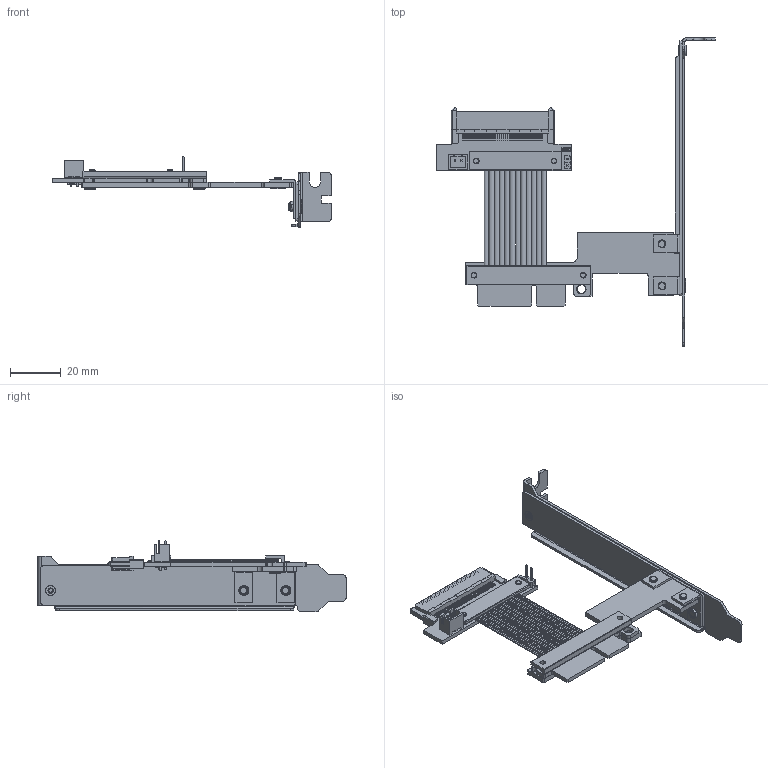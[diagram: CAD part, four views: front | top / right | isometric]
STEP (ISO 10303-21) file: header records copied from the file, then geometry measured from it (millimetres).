
FILE_DESCRIPTION(('Open CASCADE Model'),'2;1');
FILE_NAME('Open CASCADE Shape Model','2025-12-24T11:39:36',('Author'),( 'Open CASCADE'),'Open CASCADE STEP processor 7.5','Open CASCADE 7.5' ,'Unknown');
FILE_SCHEMA(('AUTOMOTIVE_DESIGN { 1 0 10303 214 1 1 1 1 }'));
Length unit declared in the file: millimetre
Products named in the file (161): PCB; Board; Open CASCADE STEP translator 7.5 2.1.1; R6; 0603_RES; Capsule; Encapsulation; TopCover; R5; D2; LED AP1608; CN2; JST 2pin; CN3; BPSC-02; 1; Pino; Base; 2; Pino001; Base001; CN1; 68F-SS10-0115-00.step; Free-Models; M2 H=5mm 20220810_RGB4408131; K2S-PAD FR4 V1.0 µװ㞲0251201_RGB0; M2º¸½ÓÎý±íÌùÍ­Öù 20250522; ͨԃȫ¸ߵ²°㫱0.5 20250516; M3 SCRew v3_RGB4408131; 293M3Lэͺ¶̗Ѡ20250325; G0030_RGB4408131; K3S-2 FR4  V1.0  20251201_RGB0; SFPLAM300057_3D 24P 20250423; K2S 20221109; K1S-A 20221109
Assembly tree (296 placements, depth 5):
  PCB
    Board
      Open CASCADE STEP translator 7.5 2.1.1
    R6
      0603_RES
        Capsule
        Encapsulation  x2
        TopCover
    R5
      0603_RES
        Capsule
        Encapsulation  x2
        TopCover
    D2
      LED AP1608
    CN2
      JST 2pin
    CN3
      BPSC-02
        1
          Pino
          Base
        2
          Pino001
          Base001
    CN1
      68F-SS10-0115-00.step  x2
      68F-SS10-0115-00.step
    Free-Models
      M2 H=5mm 20220810_RGB4408131  x4
      K2S-PAD FR4 V1.0 µװ㞲0251201_RGB0
      M2º¸½ÓÎý±íÌùÍ­Öù 20250522
      ͨԃȫ¸ߵ²°㫱0.5 20250516
      M3 SCRew v3_RGB4408131  x4
      293M3Lэͺ¶̗Ѡ20250325  x2
      G0030_RGB4408131
      K3S-2 FR4  V1.0  20251201_RGB0
      SFPLAM300057_3D 24P 20250423  x2
      SFPLAM300057_3D 24P 20250423  x2
      SFPLAM300057_3D 24P 20250423  x2
      SFPLAM300057_3D 24P 20250423  x2
      SFPLAM300057_3D 24P 20250423  x2
      SFPLAM300057_3D 24P 20250423  x2
      SFPLAM300057_3D 24P 20250423  x2
      SFPLAM300057_3D 24P 20250423  x2
      SFPLAM300057_3D 24P 20250423  x2
      SFPLAM300057_3D 24P 20250423  x2
      SFPLAM300057_3D 24P 20250423  x2
      SFPLAM300057_3D 24P 20250423  x2
      SFPLAM300057_3D 24P 20250423  x2
      SFPLAM300057_3D 24P 20250423  x2
      SFPLAM300057_3D 24P 20250423  x2
      SFPLAM300057_3D 24P 20250423  x2
      SFPLAM300057_3D 24P 20250423  x2
      SFPLAM300057_3D 24P 20250423  x2
      SFPLAM300057_3D 24P 20250423  x2
      SFPLAM300057_3D 24P 20250423  x2
      SFPLAM300057_3D 24P 20250423  x2
      SFPLAM300057_3D 24P 20250423  x2
      SFPLAM300057_3D 24P 20250423  x2
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Bounding box: 109.45 x 121 x 27.87 mm (x, y, z)
Volume: 12688.5 mm3; surface area: 34071.8 mm2
Topology: 291 solids, 291 shells, 8242 faces, 22576 edges, 14854 vertices
Faces by surface type: plane 6821, cylinder 985, bspline 377, extrusion 24, torus 19, cone 16
Full cylindrical faces by diameter (mm): 0.2 x144, 0.254 x192, 0.63 x48, 1.05 x4, 2.2 x9, 2.356 x8, 2.927 x16, 3 x1, 3.2 x5, 3.4 x1, 3.7 x1, 4 x5, 4.5 x2
Entity records: 235933 total; most frequent: CARTESIAN_POINT 51509, ORIENTED_EDGE 30436, DIRECTION 26432, EDGE_CURVE 15218, VECTOR 13412, LINE 13400, VERTEX_POINT 10023, AXIS2_PLACEMENT_3D 6510
